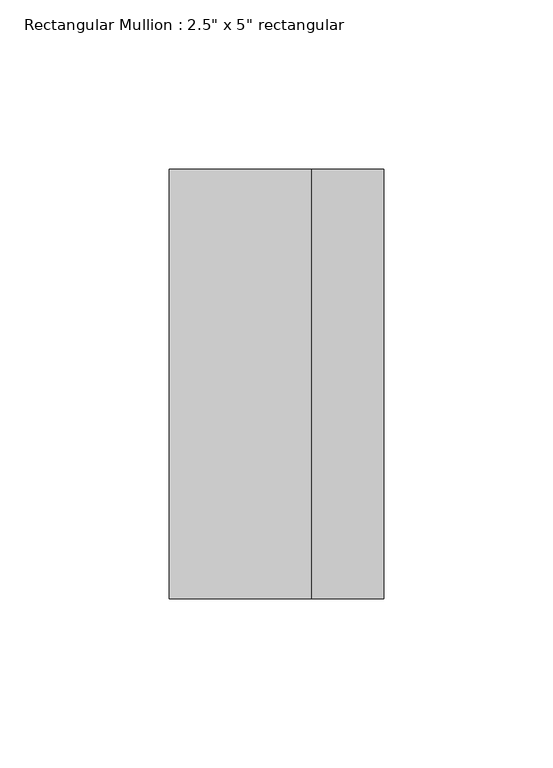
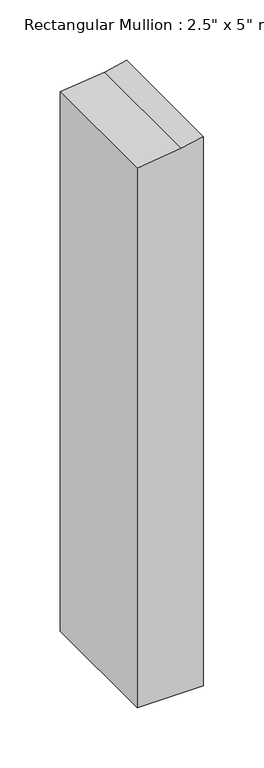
"""IFC4 building model written with IfcOpenShell, lengths in millimetres: member geometry."""

from ifc_helpers import new_model, si_unit, frame, origin, place, context, project, spatial, polyline, outline, extrude, source, transform, mapped, element, save


def member_5c1e86ec(model_context):
    return source(origin(), model_context, "Body", "SweptSolid", [
        extrude(outline(polyline([(-58.1527335, 31.75), (-62.6903452, 10.495211), (-67.8451744, -31.75), (-613.4106051, -31.75), (-613.4106051, 31.75), (-58.1527335, 31.75)])), frame((0.0, -63.5, 0.0), z_axis=(0.0, 1.0, 0.0), x_axis=(0.0, 0.0, 1.0)), (0.0, 0.0, 1.0), 127.0),
    ])


if __name__ == "__main__":
    model = new_model("IFC4")
    model_context = context("Model", 3, world=origin())
    ifc_project = project(units=[si_unit("LENGTHUNIT", "METRE", prefix="MILLI")], contexts=[model_context])
    site = spatial("IfcSite", under=ifc_project)
    building = spatial("IfcBuilding", under=site)
    placement = place(None, origin())
    member_shape = member_5c1e86ec(model_context)
    element("IfcMember", 1, ObjectType="Rectangular Mullion : 2.5\" x 5\" rectangular", at=placement, inside=building, context=model_context, shape_type="MappedRepresentation", body=[
        mapped(member_shape, transform((0.0, 0.0, 0.0), x_axis=(1.0, 0.0, 0.0), y_axis=(0.0, 1.0, 0.0), z_axis=(0.0, 0.0, 1.0))),
    ])
    save(model, "model.ifc")
